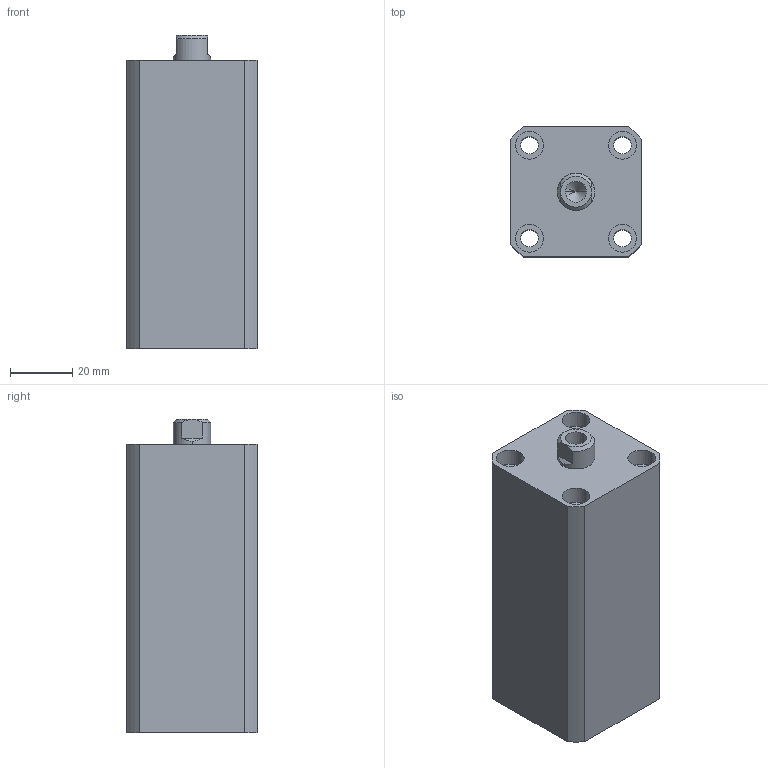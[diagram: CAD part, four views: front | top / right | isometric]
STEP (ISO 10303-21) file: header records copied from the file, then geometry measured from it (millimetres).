
FILE_DESCRIPTION (( 'STEP AP203' ), '1' );
FILE_NAME ('HTB-SDMB20-50N.STEP', '2019-10-08T11:57:26', ( '微软用户' ), ( '微软中国' ), 'SwSTEP 2.0', 'SolidWorks 2012', '' );
FILE_SCHEMA (( 'CONFIG_CONTROL_DESIGN' ));
Length unit declared in the file: millimetre
Products named in the file (3): HTB-SDMB20-50掛极; HTB-SDMB20-50N活塞杆; HTB-SDMB20-50N
Assembly tree (2 placements, depth 2):
  HTB-SDMB20-50N
    HTB-SDMB20-50掛极
    HTB-SDMB20-50N活塞杆
Bounding box: 42 x 42 x 101 mm (x, y, z)
Volume: 140339.6 mm3; surface area: 35242.1 mm2
Topology: 2 solids, 2 shells, 136 faces, 326 edges, 213 vertices
Faces by surface type: plane 64, cylinder 46, bspline 16, torus 6, cone 4
Entity records: 5023 total; most frequent: CARTESIAN_POINT 1570, ORIENTED_EDGE 648, DIRECTION 640, EDGE_CURVE 324, AXIS2_PLACEMENT_3D 231, VERTEX_POINT 213, VECTOR 178, LINE 178
